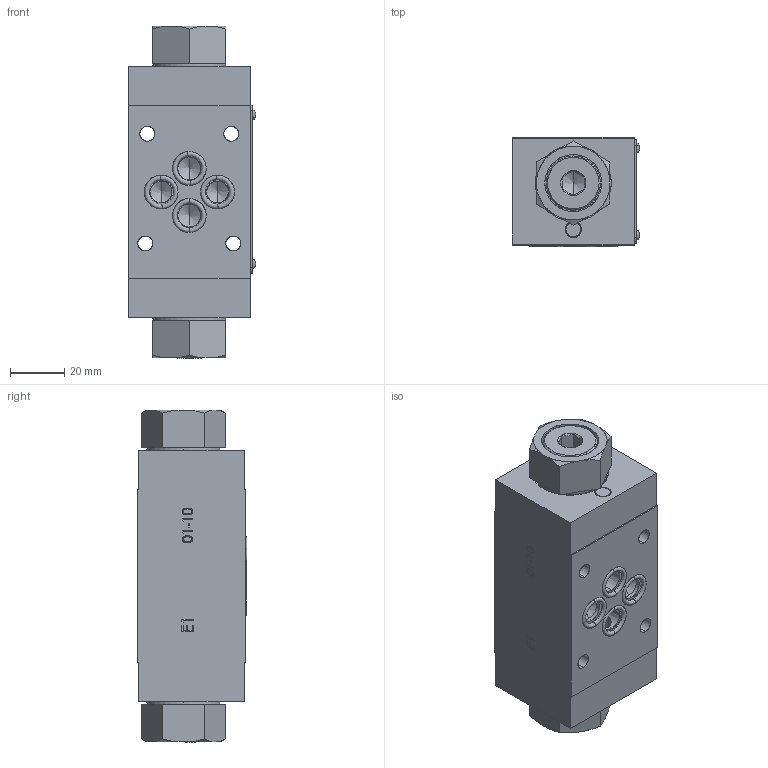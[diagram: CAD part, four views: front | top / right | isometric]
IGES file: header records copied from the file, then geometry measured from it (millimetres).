
Start section: SolidWorks IGES file using analytic representation for surfaces
Global section: file name: C:\Users\user\Desktop\LINO\3D CETOP 3\FT357-8\357-8-AB-RP3\FT357-8-AB-RP3-03.IGS; native system: SolidWorks 2014; preprocessor: SolidWorks 2014; author: user; date: 140619.142917; units: millimetre
Bounding box: 47 x 40.44 x 122.6 mm (x, y, z)
Surface area: 57969.8 mm2 (no closed solid volume)
Topology: 0 solids, 0 shells, 2008 faces, 25649 edges, 25617 vertices
Faces by surface type: bspline 1490, revolution 518
